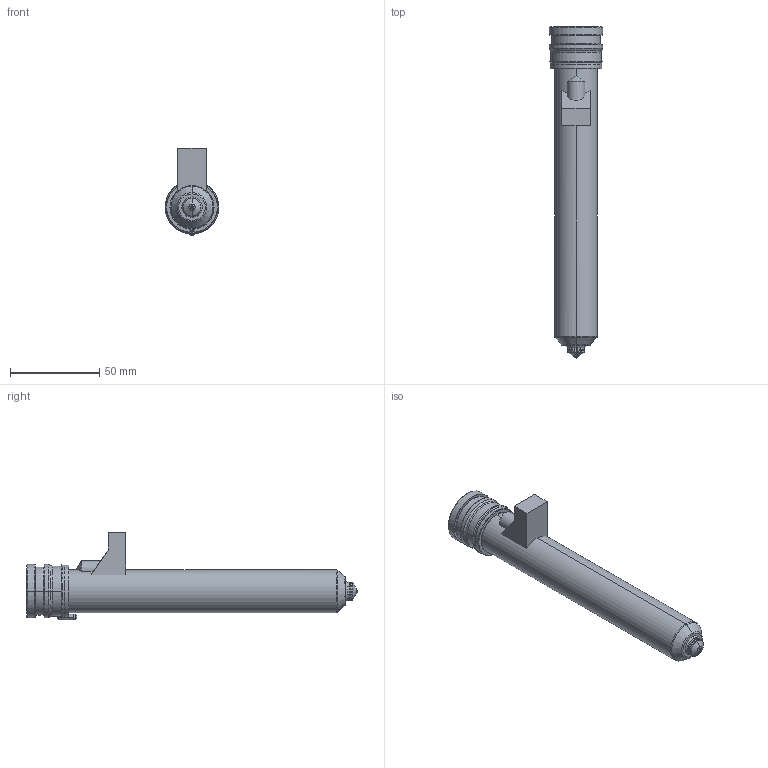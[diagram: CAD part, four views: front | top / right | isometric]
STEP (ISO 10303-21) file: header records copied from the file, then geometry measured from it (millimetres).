
FILE_DESCRIPTION((''),'2;1');
FILE_NAME('MPN-10-29-VSA10-166-M','2026-02-05T13:01:28',('UPTIO'),('Thermoplay S.p.A.'),'CREO PARAMETRIC BY PTC INC, 2023494','CREO PARAMETRIC BY PTC INC, 2023494','');
FILE_SCHEMA(('CONFIG_CONTROL_DESIGN','SHAPE_APPEARANCE_LAYERS_GROUPS'));
Length unit declared in the file: millimetre
Products named in the file (1): MPN-10-29-VSA10-166-M
Bounding box: 30 x 186 x 49 mm (x, y, z)
Volume: 58034 mm3; surface area: 59676.4 mm2
Topology: 3 solids, 5 shells, 546 faces, 1379 edges, 839 vertices
Faces by surface type: cylinder 181, plane 145, bspline 71, torus 69, cone 68, sphere 8, extrusion 4
Entity records: 28650 total; most frequent: CARTESIAN_POINT 12786, ORIENTED_EDGE 2744, DIRECTION 2618, EDGE_CURVE 1372, AXIS2_PLACEMENT_3D 1038, VERTEX_POINT 839, EDGE_LOOP 575, CIRCLE 566
